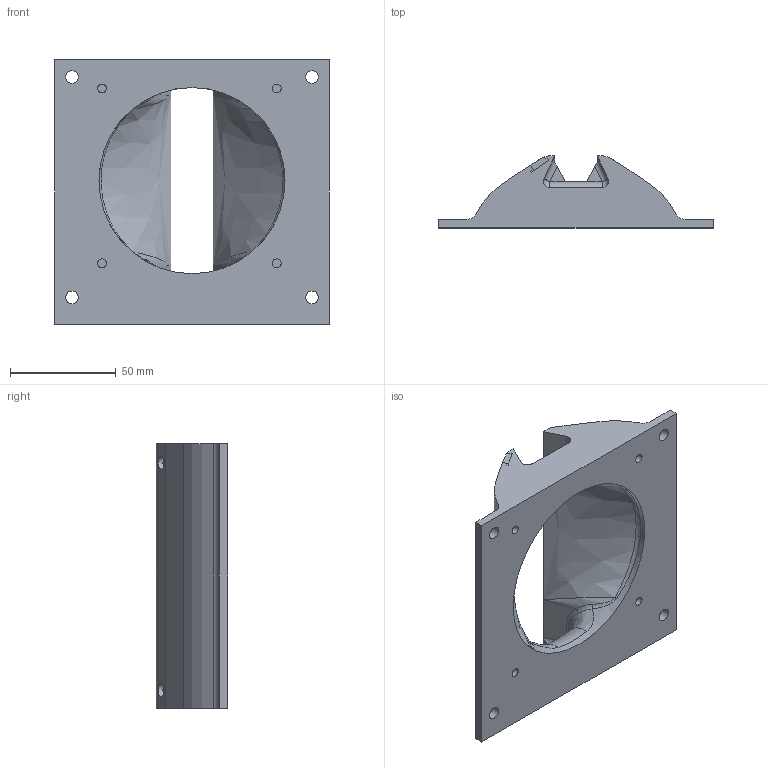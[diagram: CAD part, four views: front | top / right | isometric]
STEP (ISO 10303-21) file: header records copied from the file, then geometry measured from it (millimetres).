
FILE_DESCRIPTION(/* description */ (''),/* implementation_level */ '2;1');
FILE_NAME(/* name */ 'airduct_end_JARVIS_airpath.step',/* time_stamp */ '2023-06-05T13:33:30+02:00',/* author */ (''),/* organization */ (''),/* preprocessor_version */ 'ST-DEVELOPER v19.2',/* originating_system */ 'Autodesk Translation Framework v12.6.0.85',/* authorisation */ '');
FILE_SCHEMA (('AUTOMOTIVE_DESIGN { 1 0 10303 214 3 1 1 }'));
Length unit declared in the file: millimetre
Products named in the file (1): 4_endcap_JARVIS_airpath
Bounding box: 130 x 34 x 125.25 mm (x, y, z)
Volume: 166581.2 mm3; surface area: 47924.1 mm2
Topology: 1 solids, 1 shells, 211 faces, 585 edges, 378 vertices
Faces by surface type: bspline 110, plane 58, cylinder 40, sphere 2, torus 1
Full cylindrical faces by diameter (mm): 4.125 x4, 6 x11, 88 x1
Entity records: 8566 total; most frequent: CARTESIAN_POINT 3959, ORIENTED_EDGE 1154, DIRECTION 644, EDGE_CURVE 577, VERTEX_POINT 378, LINE 242, VECTOR 242, EDGE_LOOP 239
